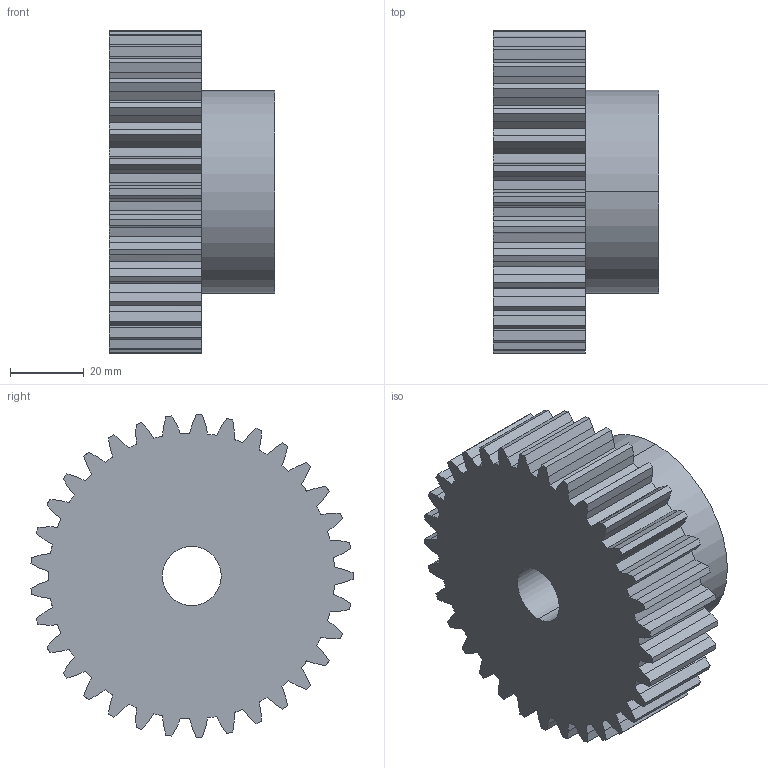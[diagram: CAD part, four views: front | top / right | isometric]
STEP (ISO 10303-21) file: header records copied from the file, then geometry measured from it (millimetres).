
FILE_DESCRIPTION (( 'STEP AP203' ), '1' );
FILE_NAME ('PM 29033.STEP', '2013-09-25T12:58:56', ( '' ), ( '' ), 'SwSTEP 2.0', 'SolidWorks 2010', '' );
FILE_SCHEMA (( 'CONFIG_CONTROL_DESIGN' ));
Length unit declared in the file: millimetre
Products named in the file (1): PM 29033
Bounding box: 45 x 87.37 x 87.46 mm (x, y, z)
Volume: 170610.1 mm3; surface area: 28088.8 mm2
Topology: 1 solids, 1 shells, 205 faces, 606 edges, 404 vertices
Faces by surface type: plane 135, cylinder 70
Entity records: 7053 total; most frequent: CARTESIAN_POINT 1795, ORIENTED_EDGE 1212, DIRECTION 904, EDGE_CURVE 606, VERTEX_POINT 404, LINE 334, VECTOR 334, AXIS2_PLACEMENT_3D 285
